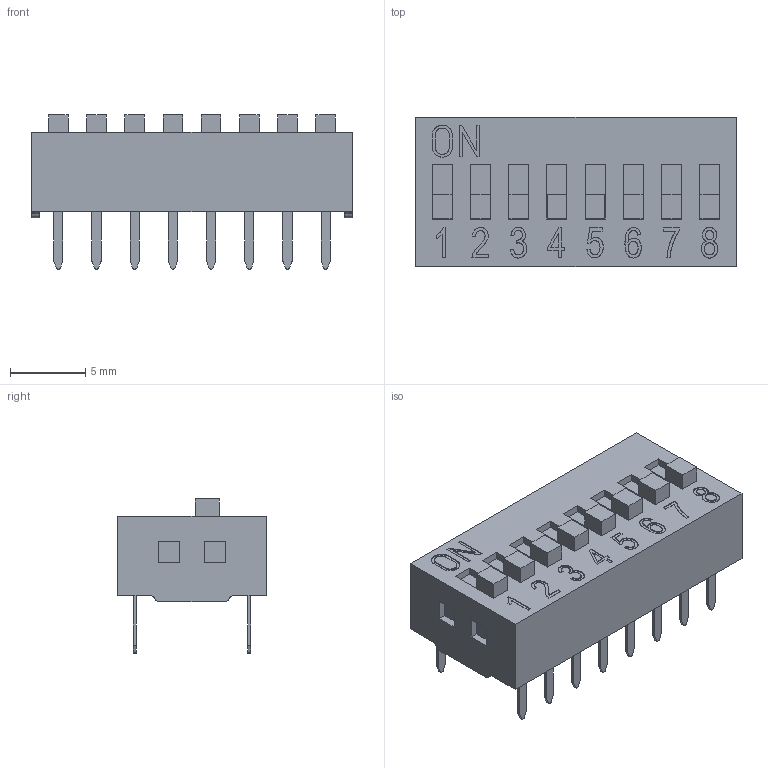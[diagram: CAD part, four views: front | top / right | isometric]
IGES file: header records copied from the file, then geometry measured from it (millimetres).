
Global section: file name: Filename.iges; native system: Open CASCADE 7.3; preprocessor: Open CASCADE IGES processor 7.3; date: 20200811.075220; units: millimetre
Bounding box: 21.32 x 9.9 x 10.25 mm (x, y, z)
Surface area: 2310.5 mm2 (no closed solid volume)
Topology: 0 solids, 0 shells, 612 faces, 3126 edges, 3126 vertices
Faces by surface type: plane 465, bspline 75, revolution 72
